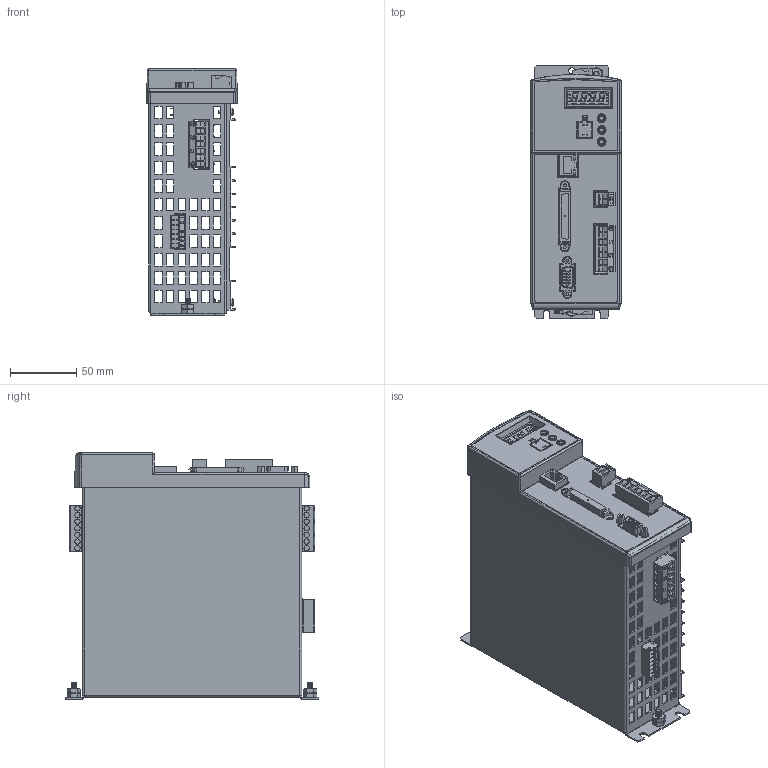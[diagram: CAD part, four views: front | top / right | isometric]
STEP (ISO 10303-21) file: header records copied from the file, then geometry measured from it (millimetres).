
FILE_DESCRIPTION (( 'STEP AP203' ), '1' );
FILE_NAME ('2097-V31PR0-new.STEP', '2009-12-16T19:20:07', ( 'IT Department' ), ( 'ACTech Lenze' ), 'SwSTEP 2.0', 'SolidWorks 2009', '' );
FILE_SCHEMA (( 'CONFIG_CONTROL_DESIGN' ));
Products named in the file (31): 603-124-17; 402-125; TAPTITE_813-163; FHS-832-8_PEM FH-832-8 X--S6; Nut 8-32_813-535; 402-085_2 PIN - 2 ACTIVE3; 603-128; 402-083_7 PIN - 5 ACTIVE3; 402-080_7 POS IN3; 9358_240v 2-10a 1-3ph (-101)2; 607-355_Hooks3; 607-355 Assy_Hooks3; 402-079_7 PIN-4 ACTIVE4; c-1734084; 401-229; 9354_Control Board Assy6; 401-141; 402-133; 600-084_Hooks6; cb-sw_702-190; 207-561; 605-357 Assy6; 9360_Display Board Assy6; 605-357_26; 2097-V31PR0-new; 401-203; 402-086_2 POS3; 600-029_Single6; 600-028_New6; 204-24; NEW 218-001_Assembled6
Assembly tree (43 placements, depth 4):
  2097-V31PR0-new
    603-124-17
      603-128
    402-080_7 POS IN3  x3
    402-086_2 POS3
    TAPTITE_813-163  x5
    402-125
    Nut 8-32_813-535  x4
    NEW 218-001_Assembled6
      600-029_Single6
      600-028_New6
      605-357 Assy6
        207-561
        401-141
        605-357_26
    9360_Display Board Assy6
      cb-sw_702-190  x3
      204-24
    9354_Control Board Assy6
      401-229
      c-1734084
      401-203
      402-133
    607-355 Assy_Hooks3
      FHS-832-8_PEM FH-832-8 X--S6  x2
      607-355_Hooks3
    600-084_Hooks6
    9358_240v 2-10a 1-3ph (-101)2
      402-083_7 PIN - 5 ACTIVE3
      402-079_7 PIN-4 ACTIVE4  x2
      402-085_2 PIN - 2 ACTIVE3
Bounding box: 67.97 x 190.5 x 185.12 mm (x, y, z)
Volume: 213641.4 mm3; surface area: 264369.4 mm2
Topology: 35 solids, 36 shells, 4570 faces, 11880 edges, 7719 vertices
Faces by surface type: plane 3166, cylinder 935, cone 303, bspline 122, torus 35, sphere 9
Entity records: 125260 total; most frequent: CARTESIAN_POINT 30674, ORIENTED_EDGE 19250, DIRECTION 17692, EDGE_CURVE 9626, VECTOR 7284, LINE 7284, VERTEX_POINT 6282, AXIS2_PLACEMENT_3D 5204
